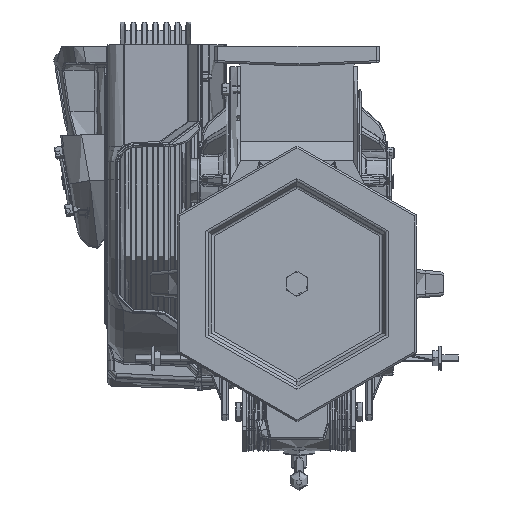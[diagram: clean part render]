
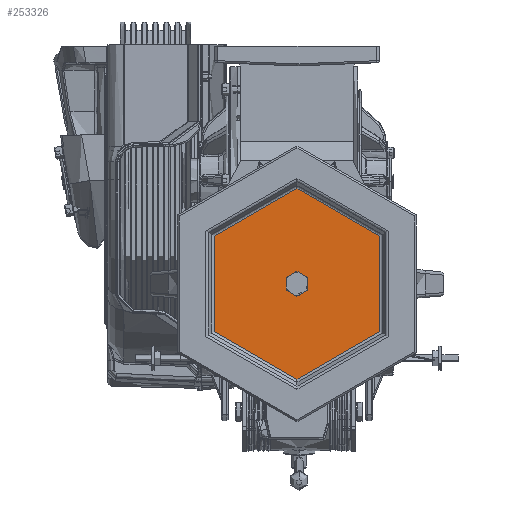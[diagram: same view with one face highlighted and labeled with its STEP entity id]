
A CAD part, front view. The second image highlights one B-rep face of the part: STEP entity #253326.
In plain terms, the highlighted planar face has unit normal (0, -1, 0).
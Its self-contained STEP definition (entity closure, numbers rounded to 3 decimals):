
#16283 = EDGE_CURVE ( 'NONE', #322703, #66108, #77852, .T. ) ;
#18044 = CARTESIAN_POINT ( 'NONE',  ( 46.614, -510.524, -24.434 ) ) ;
#19526 = CARTESIAN_POINT ( 'NONE',  ( 46.614, -510.524, -24.434 ) ) ;
#23755 = ORIENTED_EDGE ( 'NONE', *, *, #308056, .F. ) ;
#47655 = VERTEX_POINT ( 'NONE', #236438 ) ;
#54185 = DIRECTION ( 'NONE',  ( 0., 0., -1. ) ) ;
#66108 = VERTEX_POINT ( 'NONE', #80347 ) ;
#77852 = CIRCLE ( 'NONE', #300455, 138.453 ) ;
#80203 = CARTESIAN_POINT ( 'NONE',  ( 46.614, -510.524, -42.545 ) ) ;
#80347 = CARTESIAN_POINT ( 'NONE',  ( 46.614, -510.524, 114.019 ) ) ;
#95893 = DIRECTION ( 'NONE',  ( 0., 0., -1. ) ) ;
#98963 = EDGE_CURVE ( 'NONE', #66108, #322703, #161199, .T. ) ;
#108068 = DIRECTION ( 'NONE',  ( 0., -1., 0. ) ) ;
#114569 = ORIENTED_EDGE ( 'NONE', *, *, #98963, .T. ) ;
#116906 = AXIS2_PLACEMENT_3D ( 'NONE', #179578, #108068, #260977 ) ;
#126388 = VERTEX_POINT ( 'NONE', #80203 ) ;
#128890 = CARTESIAN_POINT ( 'NONE',  ( 46.614, -510.524, -24.434 ) ) ;
#155531 = EDGE_LOOP ( 'NONE', ( #293671, #114569 ) ) ;
#160928 = CARTESIAN_POINT ( 'NONE',  ( 46.614, -510.524, -162.887 ) ) ;
#161199 = CIRCLE ( 'NONE', #215212, 138.453 ) ;
#169222 = DIRECTION ( 'NONE',  ( 0., 0., -1. ) ) ;
#176846 = CARTESIAN_POINT ( 'NONE',  ( 185.067, -510.524, -24.434 ) ) ;
#178522 = DIRECTION ( 'NONE',  ( 0., -1., 0. ) ) ;
#179578 = CARTESIAN_POINT ( 'NONE',  ( 46.614, -510.524, -24.434 ) ) ;
#196349 = DIRECTION ( 'NONE',  ( 0., -1., 0. ) ) ;
#207383 = AXIS2_PLACEMENT_3D ( 'NONE', #176846, #178522, #282099 ) ;
#215212 = AXIS2_PLACEMENT_3D ( 'NONE', #19526, #301437, #95893 ) ;
#231647 = AXIS2_PLACEMENT_3D ( 'NONE', #128890, #288507, #54185 ) ;
#236386 = EDGE_CURVE ( 'NONE', #47655, #126388, #275065, .T. ) ;
#236438 = CARTESIAN_POINT ( 'NONE',  ( 46.614, -510.524, -6.323 ) ) ;
#251625 = FACE_OUTER_BOUND ( 'NONE', #155531, .T. ) ;
#252268 = CIRCLE ( 'NONE', #116906, 18.111 ) ;
#253326 = ADVANCED_FACE ( 'NONE', ( #251625, #333061 ), #307574, .T. ) ;
#260977 = DIRECTION ( 'NONE',  ( 0., 0., -1. ) ) ;
#262170 = EDGE_LOOP ( 'NONE', ( #291053, #23755 ) ) ;
#275065 = CIRCLE ( 'NONE', #231647, 18.111 ) ;
#282099 = DIRECTION ( 'NONE',  ( 0., 0., -1. ) ) ;
#288507 = DIRECTION ( 'NONE',  ( 0., -1., 0. ) ) ;
#291053 = ORIENTED_EDGE ( 'NONE', *, *, #236386, .F. ) ;
#293671 = ORIENTED_EDGE ( 'NONE', *, *, #16283, .T. ) ;
#300455 = AXIS2_PLACEMENT_3D ( 'NONE', #18044, #196349, #169222 ) ;
#301437 = DIRECTION ( 'NONE',  ( 0., -1., 0. ) ) ;
#307574 = PLANE ( 'NONE',  #207383 ) ;
#308056 = EDGE_CURVE ( 'NONE', #126388, #47655, #252268, .T. ) ;
#322703 = VERTEX_POINT ( 'NONE', #160928 ) ;
#333061 = FACE_BOUND ( 'NONE', #262170, .T. ) ;
